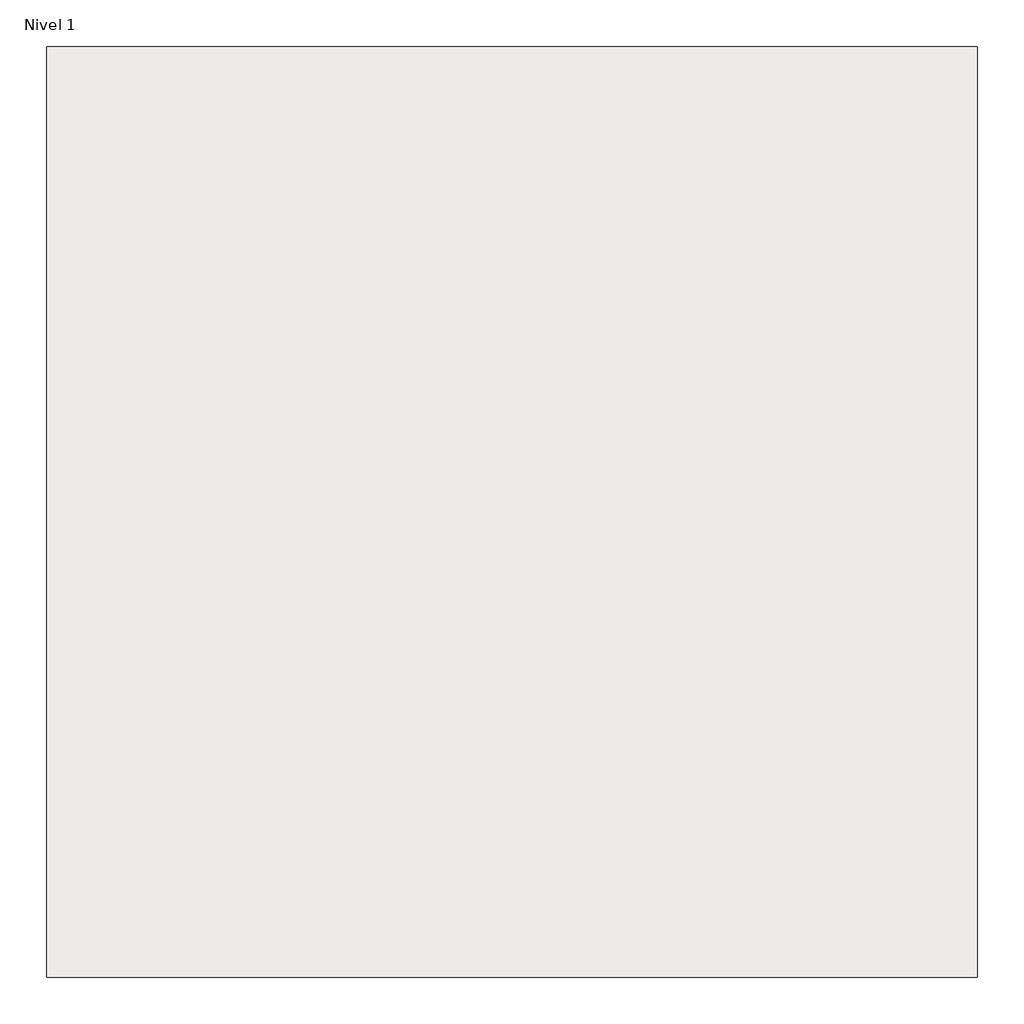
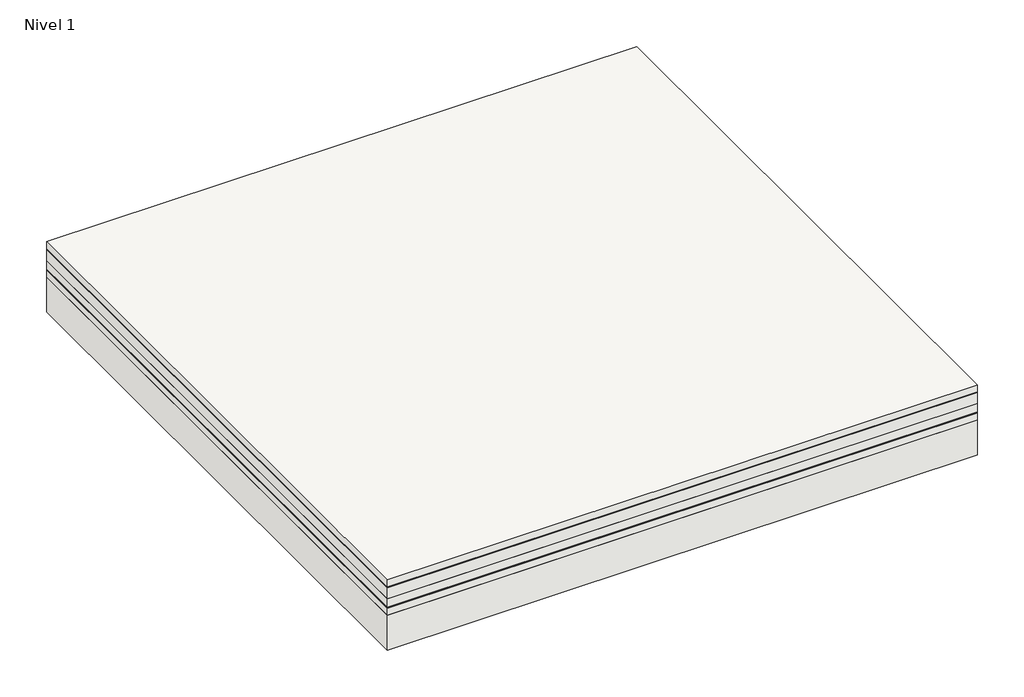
# One storey: 1 roof.
"""IFC4 building model written with IfcOpenShell, lengths in millimetres."""

from ifc_helpers import new_model, si_unit, frame, origin, origin_with_axes, place, context, project, spatial, polyline, outline, extrude, element, save

model = new_model("IFC4")

# Units and contexts
model_context = context("Model", 3, world=origin())
ifc_project = project(units=[si_unit("LENGTHUNIT", "METRE", prefix="MILLI")], contexts=[model_context])

# Site, building, storey
site = spatial("IfcSite", under=ifc_project)
building = spatial("IfcBuilding", under=site)
storey = spatial("IfcBuildingStorey", under=building, Name="Nivel 1", Elevation=0.0)

# Roof
placement = place(None, origin())
element("IfcRoof", 1, ObjectType="CubiertaSostenible-Ajardinada_Extensiva_BIAJ7_EXT", at=placement, inside=storey, context=model_context, shape_type="SweptSolid", body=[
    extrude(outline(polyline([(-2544.9527165, -3086.8428917), (-6544.9527165, -3086.8428917), (-6544.9527165, 913.1571083), (-2544.9527165, 913.1571083), (-2544.9527165, -3086.8428917)])), frame((0.0, 0.0, 452.0), z_axis=(0.0, 0.0, 1.0), x_axis=(1.0, 0.0, 0.0)), (0.0, 0.0, 1.0), 50.0),
    extrude(outline(polyline([(-2544.9527165, -3086.8428917), (-6544.9527165, -3086.8428917), (-6544.9527165, 913.1571083), (-2544.9527165, 913.1571083), (-2544.9527165, -3086.8428917)])), frame((0.0, 0.0, 450.0), z_axis=(0.0, 0.0, 1.0), x_axis=(1.0, 0.0, 0.0)), (0.0, 0.0, 1.0), 2.0),
    extrude(outline(polyline([(-2544.9527165, -3086.8428917), (-6544.9527165, -3086.8428917), (-6544.9527165, 913.1571083), (-2544.9527165, 913.1571083), (-2544.9527165, -3086.8428917)])), frame((0.0, 0.0, 448.0), z_axis=(0.0, 0.0, 1.0), x_axis=(1.0, 0.0, 0.0)), (0.0, 0.0, 1.0), 2.0),
    extrude(outline(polyline([(-2544.9527165, -3086.8428917), (-6544.9527165, -3086.8428917), (-6544.9527165, 913.1571083), (-2544.9527165, 913.1571083), (-2544.9527165, -3086.8428917)])), frame((0.0, 0.0, 368.0), z_axis=(0.0, 0.0, 1.0), x_axis=(1.0, 0.0, 0.0)), (0.0, 0.0, 1.0), 80.0),
    extrude(outline(polyline([(-2544.9527165, -3086.8428917), (-6544.9527165, -3086.8428917), (-6544.9527165, 913.1571083), (-2544.9527165, 913.1571083), (-2544.9527165, -3086.8428917)])), frame((0.0, 0.0, 308.0), z_axis=(0.0, 0.0, 1.0), x_axis=(1.0, 0.0, 0.0)), (0.0, 0.0, 1.0), 60.0),
    extrude(outline(polyline([(-2544.9527165, -3086.8428917), (-6544.9527165, -3086.8428917), (-6544.9527165, 913.1571083), (-2544.9527165, 913.1571083), (-2544.9527165, -3086.8428917)])), frame((0.0, 0.0, 306.0), z_axis=(0.0, 0.0, 1.0), x_axis=(1.0, 0.0, 0.0)), (0.0, 0.0, 1.0), 2.0),
    extrude(outline(polyline([(-2544.9527165, -3086.8428917), (-6544.9527165, -3086.8428917), (-6544.9527165, 913.1571083), (-2544.9527165, 913.1571083), (-2544.9527165, -3086.8428917)])), frame((0.0, 0.0, 304.0), z_axis=(0.0, 0.0, 1.0), x_axis=(1.0, 0.0, 0.0)), (0.0, 0.0, 1.0), 2.0),
    extrude(outline(polyline([(-2544.9527165, -3086.8428917), (-6544.9527165, -3086.8428917), (-6544.9527165, 913.1571083), (-2544.9527165, 913.1571083), (-2544.9527165, -3086.8428917)])), frame((0.0, 0.0, 302.0), z_axis=(0.0, 0.0, 1.0), x_axis=(1.0, 0.0, 0.0)), (0.0, 0.0, 1.0), 2.0),
    extrude(outline(polyline([(-2544.9527165, -3086.8428917), (-6544.9527165, -3086.8428917), (-6544.9527165, 913.1571083), (-2544.9527165, 913.1571083), (-2544.9527165, -3086.8428917)])), frame((0.0, 0.0, 300.0), z_axis=(0.0, 0.0, 1.0), x_axis=(1.0, 0.0, 0.0)), (0.0, 0.0, 1.0), 2.0),
    extrude(outline(polyline([(-2544.9527165, -3086.8428917), (-6544.9527165, -3086.8428917), (-6544.9527165, 913.1571083), (-2544.9527165, 913.1571083), (-2544.9527165, -3086.8428917)])), frame((0.0, 0.0, 250.0), z_axis=(0.0, 0.0, 1.0), x_axis=(1.0, 0.0, 0.0)), (0.0, 0.0, 1.0), 50.0),
    extrude(outline(polyline([(-2544.9527165, -3086.8428917), (-6544.9527165, -3086.8428917), (-6544.9527165, 913.1571083), (-2544.9527165, 913.1571083), (-2544.9527165, -3086.8428917)])), origin_with_axes(), (0.0, 0.0, 1.0), 250.0),
])

save(model, "model.ifc")
